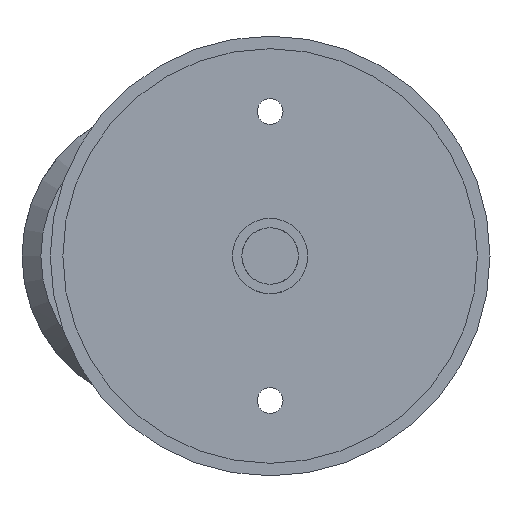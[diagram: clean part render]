
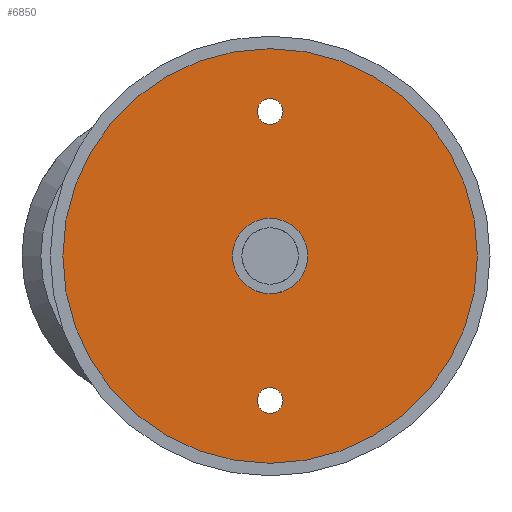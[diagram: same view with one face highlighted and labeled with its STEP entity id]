
A CAD part, front view. The second image highlights one B-rep face of the part: STEP entity #6850.
In plain terms, the highlighted planar face has unit normal (0, -1, 0).
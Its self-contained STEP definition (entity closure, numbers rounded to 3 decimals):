
#6521=CARTESIAN_POINT('',(15.,-54.5,0.));
#6522=DIRECTION('',(0.,1.,0.));
#6523=DIRECTION('',(1.,0.,0.));
#6524=AXIS2_PLACEMENT_3D('',#6521,#6522,#6523);
#6526=CARTESIAN_POINT('',(15.,-54.5,0.));
#6527=DIRECTION('',(0.,1.,0.));
#6528=DIRECTION('',(-1.,0.,0.));
#6529=AXIS2_PLACEMENT_3D('',#6526,#6527,#6528);
#6531=CARTESIAN_POINT('',(15.,-54.5,-23.));
#6532=DIRECTION('',(0.,-1.,0.));
#6533=DIRECTION('',(0.,0.,-1.));
#6534=AXIS2_PLACEMENT_3D('',#6531,#6532,#6533);
#6536=CARTESIAN_POINT('',(15.,-54.5,-23.));
#6537=DIRECTION('',(0.,-1.,0.));
#6538=DIRECTION('',(0.,0.,1.));
#6539=AXIS2_PLACEMENT_3D('',#6536,#6537,#6538);
#6541=CARTESIAN_POINT('',(15.,-54.5,23.));
#6542=DIRECTION('',(0.,-1.,0.));
#6543=DIRECTION('',(0.,0.,-1.));
#6544=AXIS2_PLACEMENT_3D('',#6541,#6542,#6543);
#6546=CARTESIAN_POINT('',(15.,-54.5,23.));
#6547=DIRECTION('',(0.,-1.,0.));
#6548=DIRECTION('',(0.,0.,1.));
#6549=AXIS2_PLACEMENT_3D('',#6546,#6547,#6548);
#6551=CARTESIAN_POINT('',(15.,-54.5,0.));
#6552=DIRECTION('',(0.,-1.,0.));
#6553=DIRECTION('',(0.,0.,1.));
#6554=AXIS2_PLACEMENT_3D('',#6551,#6552,#6553);
#6556=CARTESIAN_POINT('',(15.,-54.5,0.));
#6557=DIRECTION('',(0.,-1.,0.));
#6558=DIRECTION('',(0.,0.,-1.));
#6559=AXIS2_PLACEMENT_3D('',#6556,#6557,#6558);
#6565=CARTESIAN_POINT('',(48.,-54.5,0.));
#6566=CARTESIAN_POINT('',(-18.,-54.5,0.));
#6567=VERTEX_POINT('',#6565);
#6568=VERTEX_POINT('',#6566);
#6581=CARTESIAN_POINT('',(15.,-54.5,-20.95));
#6582=CARTESIAN_POINT('',(15.,-54.5,-25.05));
#6583=VERTEX_POINT('',#6581);
#6584=VERTEX_POINT('',#6582);
#6585=CARTESIAN_POINT('',(15.,-54.5,25.05));
#6586=CARTESIAN_POINT('',(15.,-54.5,20.95));
#6587=VERTEX_POINT('',#6585);
#6588=VERTEX_POINT('',#6586);
#6605=CARTESIAN_POINT('',(15.,-54.5,-6.));
#6606=CARTESIAN_POINT('',(15.,-54.5,6.));
#6607=VERTEX_POINT('',#6605);
#6608=VERTEX_POINT('',#6606);
#6823=CARTESIAN_POINT('',(15.,-54.5,0.));
#6824=DIRECTION('',(0.,1.,0.));
#6825=DIRECTION('',(1.,0.,0.));
#6826=AXIS2_PLACEMENT_3D('',#6823,#6824,#6825);
#6827=PLANE('',#6826);
#6828=ORIENTED_EDGE('',*,*,#6803,.T.);
#6829=ORIENTED_EDGE('',*,*,#6817,.T.);
#6830=EDGE_LOOP('',(#6828,#6829));
#6831=FACE_OUTER_BOUND('',#6830,.F.);
#6833=ORIENTED_EDGE('',*,*,#6832,.T.);
#6835=ORIENTED_EDGE('',*,*,#6834,.T.);
#6836=EDGE_LOOP('',(#6833,#6835));
#6837=FACE_BOUND('',#6836,.F.);
#6839=ORIENTED_EDGE('',*,*,#6838,.T.);
#6841=ORIENTED_EDGE('',*,*,#6840,.T.);
#6842=EDGE_LOOP('',(#6839,#6841));
#6843=FACE_BOUND('',#6842,.F.);
#6845=ORIENTED_EDGE('',*,*,#6844,.T.);
#6847=ORIENTED_EDGE('',*,*,#6846,.T.);
#6848=EDGE_LOOP('',(#6845,#6847));
#6849=FACE_BOUND('',#6848,.F.);
#6850=ADVANCED_FACE('',(#6831,#6837,#6843,#6849),#6827,.F.);
#6525=CIRCLE('',#6524,33.);
#6530=CIRCLE('',#6529,33.);
#6535=CIRCLE('',#6534,2.05);
#6540=CIRCLE('',#6539,2.05);
#6545=CIRCLE('',#6544,2.05);
#6550=CIRCLE('',#6549,2.05);
#6555=CIRCLE('',#6554,6.);
#6560=CIRCLE('',#6559,6.);
#6803=EDGE_CURVE('',#6567,#6568,#6525,.T.);
#6817=EDGE_CURVE('',#6568,#6567,#6530,.T.);
#6832=EDGE_CURVE('',#6584,#6583,#6535,.T.);
#6834=EDGE_CURVE('',#6583,#6584,#6540,.T.);
#6838=EDGE_CURVE('',#6588,#6587,#6545,.T.);
#6840=EDGE_CURVE('',#6587,#6588,#6550,.T.);
#6844=EDGE_CURVE('',#6608,#6607,#6555,.T.);
#6846=EDGE_CURVE('',#6607,#6608,#6560,.T.);
